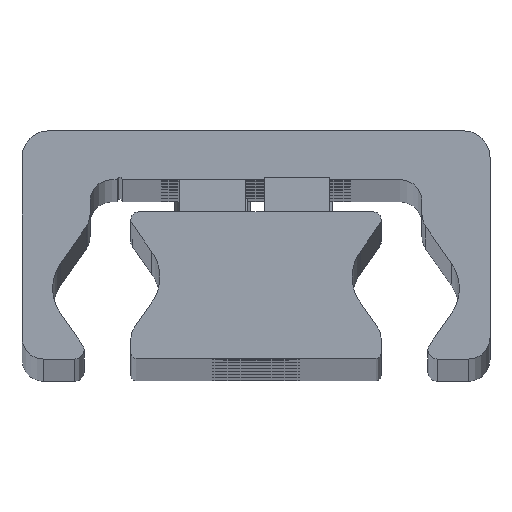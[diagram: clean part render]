
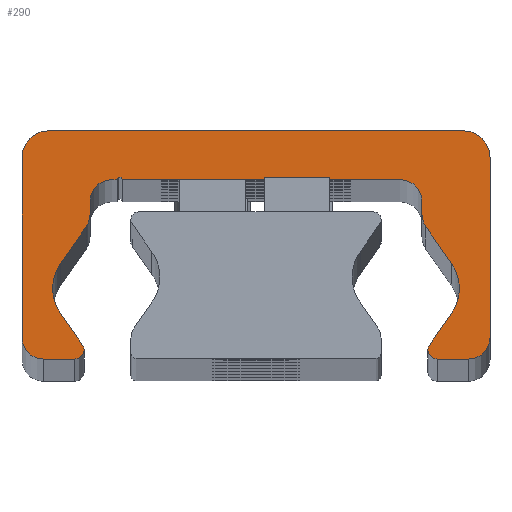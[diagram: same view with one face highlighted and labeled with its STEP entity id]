
A CAD part, top view. The second image highlights one B-rep face of the part: STEP entity #290.
In plain terms, the highlighted planar face has unit normal (0, 0, 1).
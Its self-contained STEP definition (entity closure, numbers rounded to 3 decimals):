
#290=ADVANCED_FACE('',(#808),#809,.T.);
#808=FACE_OUTER_BOUND('',#1327,.T.);
#809=PLANE('',#1328);
#1327=EDGE_LOOP('',(#3074,#3075,#3076,#3077,#3078,#3079,#3080,#3081,#3082,#3083,#3084,#3085,#3086,#3087,#3088,#3089,#3090,#3091,#3092,#3093,#3094,#3095,#3096,#3097,#3098,#3099,#3100,#3101,#3102,#3103));
#1328=AXIS2_PLACEMENT_3D('',#3104,#3105,#3106);
#3074=ORIENTED_EDGE('',*,*,#3449,.F.);
#3075=ORIENTED_EDGE('',*,*,#3702,.F.);
#3076=ORIENTED_EDGE('',*,*,#3435,.F.);
#3077=ORIENTED_EDGE('',*,*,#3701,.F.);
#3078=ORIENTED_EDGE('',*,*,#3697,.F.);
#3079=ORIENTED_EDGE('',*,*,#3694,.F.);
#3080=ORIENTED_EDGE('',*,*,#3691,.F.);
#3081=ORIENTED_EDGE('',*,*,#3688,.F.);
#3082=ORIENTED_EDGE('',*,*,#3685,.F.);
#3083=ORIENTED_EDGE('',*,*,#3682,.F.);
#3084=ORIENTED_EDGE('',*,*,#3679,.F.);
#3085=ORIENTED_EDGE('',*,*,#3676,.F.);
#3086=ORIENTED_EDGE('',*,*,#3673,.F.);
#3087=ORIENTED_EDGE('',*,*,#3670,.F.);
#3088=ORIENTED_EDGE('',*,*,#3441,.F.);
#3089=ORIENTED_EDGE('',*,*,#3668,.F.);
#3090=ORIENTED_EDGE('',*,*,#3443,.F.);
#3091=ORIENTED_EDGE('',*,*,#3667,.F.);
#3092=ORIENTED_EDGE('',*,*,#3663,.F.);
#3093=ORIENTED_EDGE('',*,*,#3660,.F.);
#3094=ORIENTED_EDGE('',*,*,#3657,.F.);
#3095=ORIENTED_EDGE('',*,*,#3654,.F.);
#3096=ORIENTED_EDGE('',*,*,#3651,.F.);
#3097=ORIENTED_EDGE('',*,*,#3648,.F.);
#3098=ORIENTED_EDGE('',*,*,#3645,.F.);
#3099=ORIENTED_EDGE('',*,*,#3642,.F.);
#3100=ORIENTED_EDGE('',*,*,#3639,.F.);
#3101=ORIENTED_EDGE('',*,*,#3636,.F.);
#3102=ORIENTED_EDGE('',*,*,#3633,.F.);
#3103=ORIENTED_EDGE('',*,*,#3630,.F.);
#3104=CARTESIAN_POINT('',(-0.023,14.187,567.0));
#3105=DIRECTION('',(0.0,0.0,1.0));
#3106=DIRECTION('',(1.0,0.0,0.0));
#3435=EDGE_CURVE('',#4174,#4177,#4178,.T.);
#3441=EDGE_CURVE('',#4187,#4183,#4189,.T.);
#3443=EDGE_CURVE('',#4190,#4193,#4194,.T.);
#3449=EDGE_CURVE('',#4203,#4199,#4205,.T.);
#3630=EDGE_CURVE('',#4199,#4496,#4497,.T.);
#3633=EDGE_CURVE('',#4496,#4501,#4502,.T.);
#3636=EDGE_CURVE('',#4501,#4506,#4507,.T.);
#3639=EDGE_CURVE('',#4506,#4511,#4512,.T.);
#3642=EDGE_CURVE('',#4511,#4516,#4517,.T.);
#3645=EDGE_CURVE('',#4516,#4521,#4522,.T.);
#3648=EDGE_CURVE('',#4521,#4526,#4527,.T.);
#3651=EDGE_CURVE('',#4526,#4531,#4532,.T.);
#3654=EDGE_CURVE('',#4531,#4536,#4537,.T.);
#3657=EDGE_CURVE('',#4536,#4541,#4542,.T.);
#3660=EDGE_CURVE('',#4541,#4546,#4547,.T.);
#3663=EDGE_CURVE('',#4546,#4551,#4552,.T.);
#3667=EDGE_CURVE('',#4551,#4190,#4557,.T.);
#3668=EDGE_CURVE('',#4193,#4187,#4558,.T.);
#3670=EDGE_CURVE('',#4183,#4560,#4561,.T.);
#3673=EDGE_CURVE('',#4560,#4565,#4566,.T.);
#3676=EDGE_CURVE('',#4565,#4570,#4571,.T.);
#3679=EDGE_CURVE('',#4570,#4575,#4576,.T.);
#3682=EDGE_CURVE('',#4575,#4580,#4581,.T.);
#3685=EDGE_CURVE('',#4580,#4585,#4586,.T.);
#3688=EDGE_CURVE('',#4585,#4590,#4591,.T.);
#3691=EDGE_CURVE('',#4590,#4595,#4596,.T.);
#3694=EDGE_CURVE('',#4595,#4600,#4601,.T.);
#3697=EDGE_CURVE('',#4600,#4605,#4606,.T.);
#3701=EDGE_CURVE('',#4605,#4174,#4611,.T.);
#3702=EDGE_CURVE('',#4177,#4203,#4612,.T.);
#4174=VERTEX_POINT('',#5234);
#4177=VERTEX_POINT('',#5238);
#4178=CIRCLE('',#5239,0.85);
#4183=VERTEX_POINT('',#5245);
#4187=VERTEX_POINT('',#5250);
#4189=CIRCLE('',#5253,0.85);
#4190=VERTEX_POINT('',#5254);
#4193=VERTEX_POINT('',#5258);
#4194=CIRCLE('',#5259,4.);
#4199=VERTEX_POINT('',#5265);
#4203=VERTEX_POINT('',#5270);
#4205=CIRCLE('',#5273,4.);
#4496=VERTEX_POINT('',#5650);
#4497=CIRCLE('',#5651,4.);
#4501=VERTEX_POINT('',#5656);
#4502=LINE('',#5657,#5658);
#4506=VERTEX_POINT('',#5664);
#4507=CIRCLE('',#5665,2.);
#4511=VERTEX_POINT('',#5670);
#4512=LINE('',#5671,#5672);
#4516=VERTEX_POINT('',#5678);
#4517=CIRCLE('',#5679,2.0);
#4521=VERTEX_POINT('',#5684);
#4522=LINE('',#5685,#5686);
#4526=VERTEX_POINT('',#5692);
#4527=CIRCLE('',#5693,0.25);
#4531=VERTEX_POINT('',#5698);
#4532=LINE('',#5699,#5700);
#4536=VERTEX_POINT('',#5706);
#4537=CIRCLE('',#5707,2.0);
#4541=VERTEX_POINT('',#5712);
#4542=LINE('',#5713,#5714);
#4546=VERTEX_POINT('',#5720);
#4547=CIRCLE('',#5721,2.0);
#4551=VERTEX_POINT('',#5726);
#4552=LINE('',#5727,#5728);
#4557=CIRCLE('',#5735,4.);
#4558=LINE('',#5736,#5737);
#4560=VERTEX_POINT('',#5740);
#4561=CIRCLE('',#5741,0.85);
#4565=VERTEX_POINT('',#5746);
#4566=LINE('',#5747,#5748);
#4570=VERTEX_POINT('',#5754);
#4571=CIRCLE('',#5755,2.);
#4575=VERTEX_POINT('',#5760);
#4576=LINE('',#5761,#5762);
#4580=VERTEX_POINT('',#5768);
#4581=CIRCLE('',#5769,2.5);
#4585=VERTEX_POINT('',#5774);
#4586=LINE('',#5775,#5776);
#4590=VERTEX_POINT('',#5782);
#4591=CIRCLE('',#5783,2.5);
#4595=VERTEX_POINT('',#5788);
#4596=LINE('',#5789,#5790);
#4600=VERTEX_POINT('',#5796);
#4601=CIRCLE('',#5797,2.);
#4605=VERTEX_POINT('',#5802);
#4606=LINE('',#5803,#5804);
#4611=CIRCLE('',#5811,0.85);
#4612=LINE('',#5812,#5813);
#5234=CARTESIAN_POINT('',(15.8,1.859,567.0));
#5238=CARTESIAN_POINT('',(15.922,2.298,567.0));
#5239=AXIS2_PLACEMENT_3D('',#6399,#6400,#6401);
#5245=CARTESIAN_POINT('',(-15.8,1.859,567.0));
#5250=CARTESIAN_POINT('',(-15.922,2.298,567.0));
#5253=AXIS2_PLACEMENT_3D('',#6411,#6412,#6413);
#5254=CARTESIAN_POINT('',(-18.688,7.509,567.0));
#5258=CARTESIAN_POINT('',(-17.964,5.214,567.0));
#5259=AXIS2_PLACEMENT_3D('',#6415,#6416,#6417);
#5265=CARTESIAN_POINT('',(18.688,7.509,567.0));
#5270=CARTESIAN_POINT('',(17.964,5.214,567.0));
#5273=AXIS2_PLACEMENT_3D('',#6427,#6428,#6429);
#5650=CARTESIAN_POINT('',(17.964,9.803,567.0));
#5651=AXIS2_PLACEMENT_3D('',#6798,#6799,#6800);
#5656=CARTESIAN_POINT('',(15.612,13.163,567.0));
#5657=CARTESIAN_POINT('',(15.612,13.163,567.0));
#5658=VECTOR('',#6805,1.0);
#5664=CARTESIAN_POINT('',(15.25,14.31,567.0));
#5665=AXIS2_PLACEMENT_3D('',#6808,#6809,#6810);
#5670=CARTESIAN_POINT('',(15.25,15.509,567.0));
#5671=CARTESIAN_POINT('',(15.25,15.509,567.0));
#5672=VECTOR('',#6815,1.0);
#5678=CARTESIAN_POINT('',(13.25,17.509,567.0));
#5679=AXIS2_PLACEMENT_3D('',#6818,#6819,#6820);
#5684=CARTESIAN_POINT('',(-12.25,17.509,567.0));
#5685=CARTESIAN_POINT('',(-12.25,17.509,567.0));
#5686=VECTOR('',#6825,1.0);
#5692=CARTESIAN_POINT('',(-12.75,17.509,567.0));
#5693=AXIS2_PLACEMENT_3D('',#6828,#6829,#6830);
#5698=CARTESIAN_POINT('',(-13.25,17.509,567.0));
#5699=CARTESIAN_POINT('',(-13.25,17.509,567.0));
#5700=VECTOR('',#6835,1.0);
#5706=CARTESIAN_POINT('',(-15.25,15.509,567.0));
#5707=AXIS2_PLACEMENT_3D('',#6838,#6839,#6840);
#5712=CARTESIAN_POINT('',(-15.25,14.31,567.0));
#5713=CARTESIAN_POINT('',(-15.25,14.31,567.0));
#5714=VECTOR('',#6845,1.0);
#5720=CARTESIAN_POINT('',(-15.612,13.163,567.0));
#5721=AXIS2_PLACEMENT_3D('',#6848,#6849,#6850);
#5726=CARTESIAN_POINT('',(-17.964,9.803,567.0));
#5727=CARTESIAN_POINT('',(-17.964,9.803,567.0));
#5728=VECTOR('',#6855,1.);
#5735=AXIS2_PLACEMENT_3D('',#6861,#6862,#6863);
#5736=CARTESIAN_POINT('',(-15.922,2.298,567.0));
#5737=VECTOR('',#6864,1.0);
#5740=CARTESIAN_POINT('',(-16.65,1.009,567.0));
#5741=AXIS2_PLACEMENT_3D('',#6866,#6867,#6868);
#5746=CARTESIAN_POINT('',(-19.5,1.009,567.0));
#5747=CARTESIAN_POINT('',(-19.5,1.009,567.0));
#5748=VECTOR('',#6873,1.0);
#5754=CARTESIAN_POINT('',(-21.5,3.009,567.0));
#5755=AXIS2_PLACEMENT_3D('',#6876,#6877,#6878);
#5760=CARTESIAN_POINT('',(-21.5,19.509,567.0));
#5761=CARTESIAN_POINT('',(-21.5,19.509,567.0));
#5762=VECTOR('',#6883,1.0);
#5768=CARTESIAN_POINT('',(-19.0,22.009,567.0));
#5769=AXIS2_PLACEMENT_3D('',#6886,#6887,#6888);
#5774=CARTESIAN_POINT('',(19.0,22.009,567.0));
#5775=CARTESIAN_POINT('',(19.0,22.009,567.0));
#5776=VECTOR('',#6893,1.0);
#5782=CARTESIAN_POINT('',(21.5,19.509,567.0));
#5783=AXIS2_PLACEMENT_3D('',#6896,#6897,#6898);
#5788=CARTESIAN_POINT('',(21.5,3.009,567.0));
#5789=CARTESIAN_POINT('',(21.5,3.009,567.0));
#5790=VECTOR('',#6903,1.0);
#5796=CARTESIAN_POINT('',(19.5,1.009,567.0));
#5797=AXIS2_PLACEMENT_3D('',#6906,#6907,#6908);
#5802=CARTESIAN_POINT('',(16.65,1.009,567.0));
#5803=CARTESIAN_POINT('',(16.65,1.009,567.0));
#5804=VECTOR('',#6913,1.0);
#5811=AXIS2_PLACEMENT_3D('',#6919,#6920,#6921);
#5812=CARTESIAN_POINT('',(17.964,5.214,567.0));
#5813=VECTOR('',#6922,1.0);
#6399=CARTESIAN_POINT('',(16.65,1.859,567.0));
#6400=DIRECTION('',(0.0,0.0,-1.0));
#6401=DIRECTION('',(1.0,0.0,0.0));
#6411=CARTESIAN_POINT('',(-16.65,1.859,567.0));
#6412=DIRECTION('',(0.0,0.0,-1.0));
#6413=DIRECTION('',(1.0,0.0,0.0));
#6415=CARTESIAN_POINT('',(-14.688,7.509,567.0));
#6416=DIRECTION('',(0.0,0.0,1.0));
#6417=DIRECTION('',(1.0,0.0,0.0));
#6427=CARTESIAN_POINT('',(14.688,7.509,567.0));
#6428=DIRECTION('',(0.0,0.0,1.0));
#6429=DIRECTION('',(1.0,0.0,0.0));
#6798=CARTESIAN_POINT('',(14.688,7.509,567.0));
#6799=DIRECTION('',(0.0,0.0,1.0));
#6800=DIRECTION('',(1.0,0.0,0.0));
#6805=DIRECTION('',(-0.574,0.819,0.0));
#6808=CARTESIAN_POINT('',(17.25,14.31,567.0));
#6809=DIRECTION('',(0.0,0.0,-1.0));
#6810=DIRECTION('',(1.0,0.0,0.0));
#6815=DIRECTION('',(0.0,1.0,0.0));
#6818=CARTESIAN_POINT('',(13.25,15.509,567.0));
#6819=DIRECTION('',(0.0,0.0,1.0));
#6820=DIRECTION('',(1.0,0.0,0.0));
#6825=DIRECTION('',(-1.0,-0.0,-0.0));
#6828=CARTESIAN_POINT('',(-12.5,17.509,567.0));
#6829=DIRECTION('',(0.0,0.0,1.0));
#6830=DIRECTION('',(1.0,0.0,0.0));
#6835=DIRECTION('',(-1.0,-0.0,-0.0));
#6838=CARTESIAN_POINT('',(-13.25,15.509,567.0));
#6839=DIRECTION('',(0.0,0.0,1.0));
#6840=DIRECTION('',(1.0,0.0,0.0));
#6845=DIRECTION('',(-0.0,-1.0,-0.0));
#6848=CARTESIAN_POINT('',(-17.25,14.31,567.0));
#6849=DIRECTION('',(0.0,0.0,-1.0));
#6850=DIRECTION('',(1.0,0.0,0.0));
#6855=DIRECTION('',(-0.574,-0.819,-0.0));
#6861=CARTESIAN_POINT('',(-14.688,7.509,567.0));
#6862=DIRECTION('',(0.0,0.0,1.0));
#6863=DIRECTION('',(1.0,0.0,0.0));
#6864=DIRECTION('',(0.574,-0.819,0.0));
#6866=CARTESIAN_POINT('',(-16.65,1.859,567.0));
#6867=DIRECTION('',(0.0,0.0,-1.0));
#6868=DIRECTION('',(1.0,0.0,0.0));
#6873=DIRECTION('',(-1.0,-0.0,-0.0));
#6876=CARTESIAN_POINT('',(-19.5,3.009,567.0));
#6877=DIRECTION('',(0.0,0.0,-1.0));
#6878=DIRECTION('',(1.0,0.0,0.0));
#6883=DIRECTION('',(0.0,1.0,0.0));
#6886=CARTESIAN_POINT('',(-19.0,19.509,567.0));
#6887=DIRECTION('',(0.0,0.0,-1.0));
#6888=DIRECTION('',(1.0,0.0,0.0));
#6893=DIRECTION('',(1.0,0.0,0.0));
#6896=CARTESIAN_POINT('',(19.0,19.509,567.0));
#6897=DIRECTION('',(0.0,0.0,-1.0));
#6898=DIRECTION('',(1.0,0.0,0.0));
#6903=DIRECTION('',(-0.0,-1.0,-0.0));
#6906=CARTESIAN_POINT('',(19.5,3.009,567.0));
#6907=DIRECTION('',(0.0,0.0,-1.0));
#6908=DIRECTION('',(1.0,0.0,0.0));
#6913=DIRECTION('',(-1.0,-0.0,-0.0));
#6919=CARTESIAN_POINT('',(16.65,1.859,567.0));
#6920=DIRECTION('',(0.0,0.0,-1.0));
#6921=DIRECTION('',(1.0,0.0,0.0));
#6922=DIRECTION('',(0.574,0.819,0.0));
